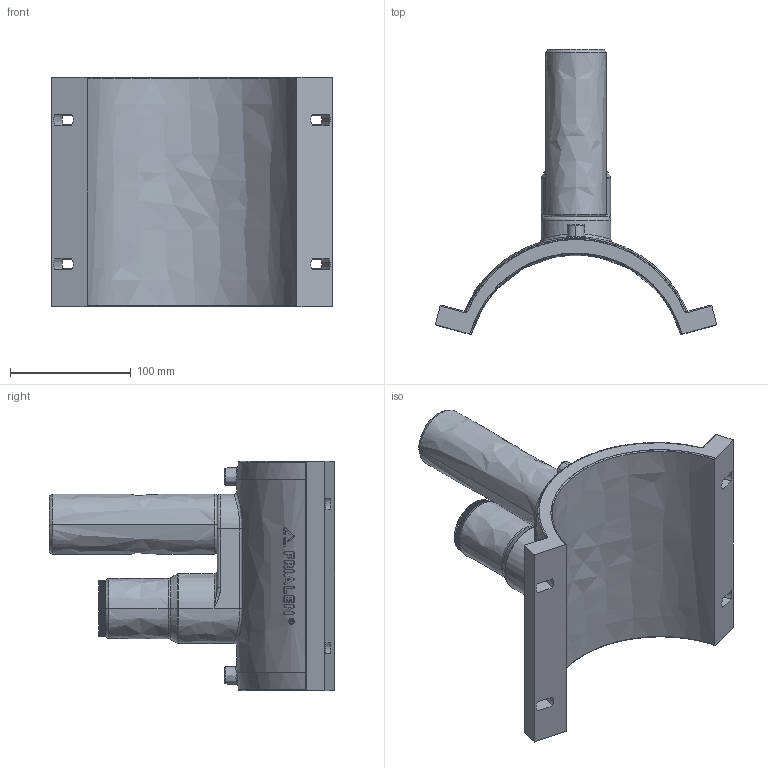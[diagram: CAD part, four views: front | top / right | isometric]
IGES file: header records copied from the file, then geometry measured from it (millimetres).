
Start section:  PTC IGES file: dap_d180_50_01.igs
Global section: file name: dap_d180_50_01.igs; native system: Pro/ENGINEER by Parametric Technology Corporation; preprocessor: 2011490; author: mtunjic; organization: Unknown; date: 20130909.081939; units: millimetre
Bounding box: 233.6 x 236.5 x 190 mm (x, y, z)
Surface area: 184285.7 mm2 (no closed solid volume)
Topology: 0 solids, 0 shells, 757 faces, 4304 edges, 4304 vertices
Faces by surface type: bspline 757
